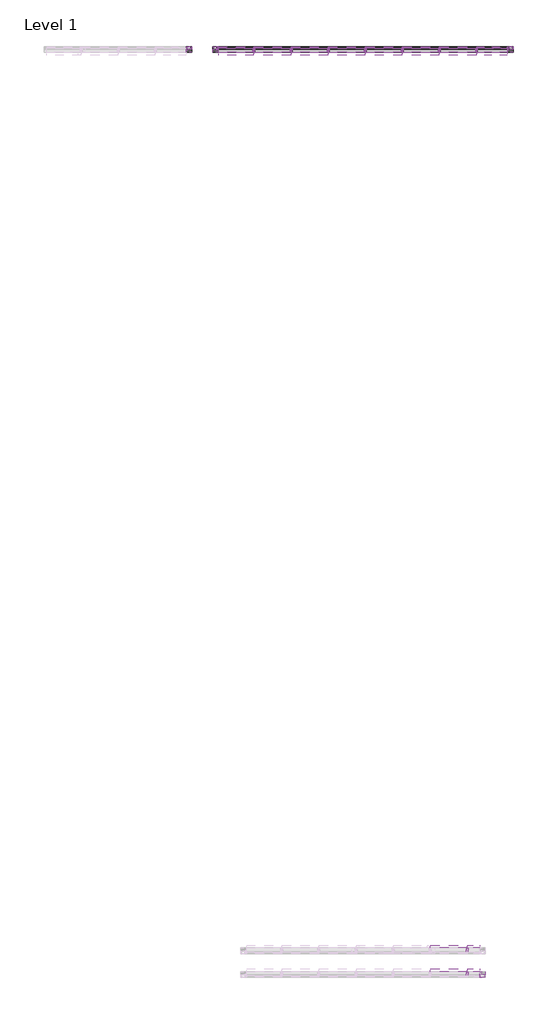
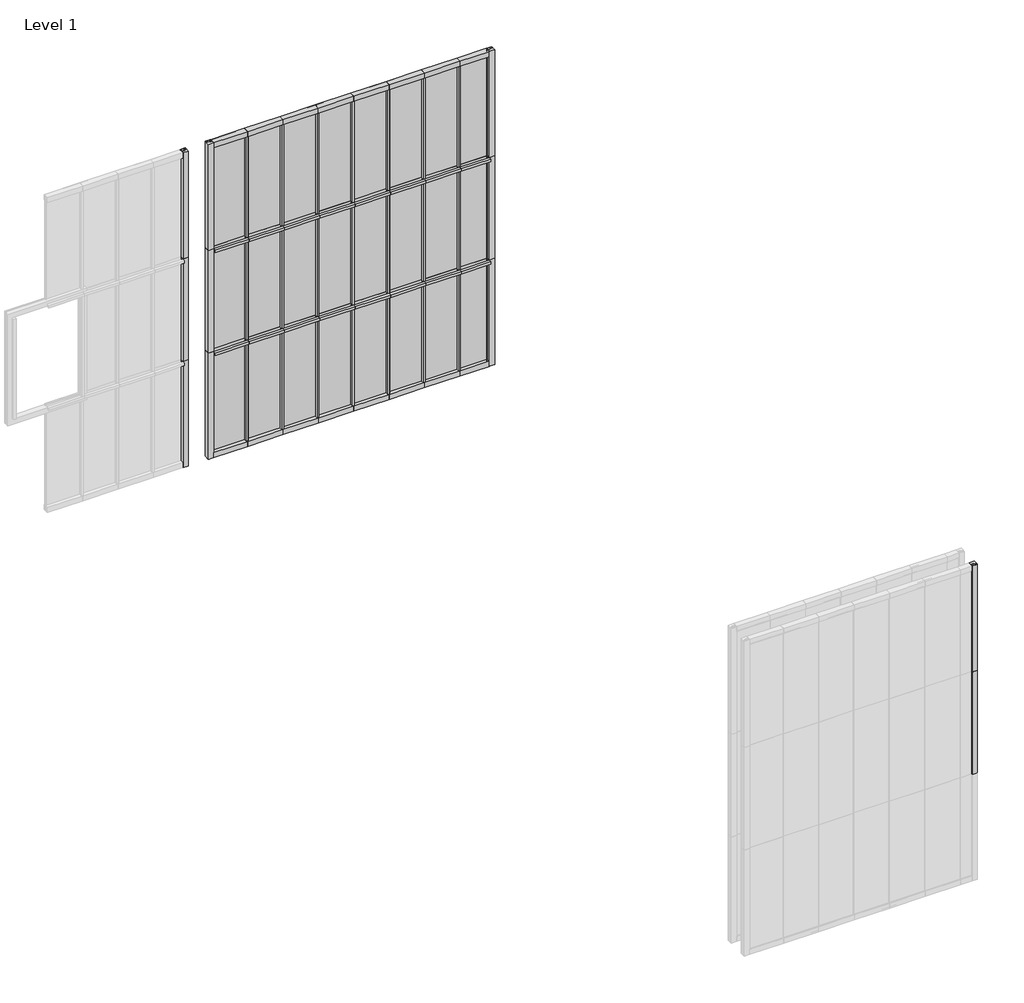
# One storey, part 3 of 3: 75 members, 24 plates.
"""IFC4 building model written with IfcOpenShell, lengths in millimetres."""

from ifc_helpers import new_model, si_unit, origin, place, context, project, spatial, transform, mapped, element, save
from components import rectangular_mullion_ef4c3dbc, rectangular_mullion_38807b77, rectangular_mullion_2cd8be2a, rectangular_mullion_7fd34434, rectangular_mullion_f4b86b5b, rectangular_mullion_f51daa18, rectangular_mullion_e8e8685e, rectangular_mullion_af7c33be, rectangular_mullion_9c042f3e, rectangular_mullion_367668c4, rectangular_mullion_1778ee46, rectangular_mullion_ea144f86, rectangular_mullion_4a3f3de7, rectangular_mullion_879f446c, rectangular_mullion_05b556cc, rectangular_mullion_7f2ec0c3, rectangular_mullion_41eb730e, rectangular_mullion_1f556744, plate_1633828d, plate_0e341a54

model = new_model("IFC4")

# Units and contexts
model_context = context("Model", 3, world=origin())
ifc_project = project(units=[si_unit("LENGTHUNIT", "METRE", prefix="MILLI")], contexts=[model_context])

# Site, building, storey
site = spatial("IfcSite", under=ifc_project)
building = spatial("IfcBuilding", under=site)
storey = spatial("IfcBuildingStorey", under=building, Name="Level 1", Elevation=0.0)

# Members
placement = place(None, origin())
rectangular_mullion_shape = rectangular_mullion_ef4c3dbc(model_context)
element("IfcMember", 1, ObjectType="Rectangular Mullion : Danpal_NM_End-Mullion_B2", at=placement, inside=storey, context=model_context, shape_type="MappedRepresentation", body=[
    mapped(rectangular_mullion_shape, transform((4264.2822678, 2597.5512666, 3315.1583168), x_axis=(1.0, 0.0, 0.0), y_axis=(0.0, -1.0, 0.0), z_axis=(0.0, 0.0, -1.0))),
])
rectangular_mullion_2_shape = rectangular_mullion_38807b77(model_context)
element("IfcMember", 2, ObjectType="Rectangular Mullion : Danpal_NM_InetrnalV-Mullion", at=placement, inside=storey, context=model_context, shape_type="MappedRepresentation", body=[
    mapped(rectangular_mullion_2_shape, transform((4008.5454106, 2937.5512666, 3315.1583168), x_axis=(1.0, 0.0, 0.0), y_axis=(0.0, -1.0, 0.0), z_axis=(0.0, 0.0, -1.0))),
])
element("IfcMember", 3, ObjectType="Rectangular Mullion : Danpal_NM_InetrnalV-Mullion", at=placement, inside=storey, context=model_context, shape_type="MappedRepresentation", body=[
    mapped(rectangular_mullion_2_shape, transform((4008.5454106, 2597.5512666, 3315.1583168), x_axis=(1.0, 0.0, 0.0), y_axis=(0.0, -1.0, 0.0), z_axis=(0.0, 0.0, -1.0))),
])
rectangular_mullion_3_shape = rectangular_mullion_2cd8be2a(model_context)
element("IfcMember", 4, ObjectType="Rectangular Mullion : Danpal_NM_InetrnalV-Mullion", at=placement, inside=storey, context=model_context, shape_type="MappedRepresentation", body=[
    mapped(rectangular_mullion_3_shape, transform((4008.5454106, 2597.5512666, 1686.1107298), x_axis=(1.0, 0.0, 0.0), y_axis=(0.0, -1.0, 0.0), z_axis=(0.0, 0.0, -1.0))),
])
rectangular_mullion_4_shape = rectangular_mullion_7fd34434(model_context)
element("IfcMember", 5, ObjectType="Rectangular Mullion : Danpal_NM_End-Mullion_B2", at=placement, inside=storey, context=model_context, shape_type="MappedRepresentation", body=[
    mapped(rectangular_mullion_4_shape, transform((4264.2822678, 2597.5512666, 1686.1107298), x_axis=(1.0, 0.0, 0.0), y_axis=(0.0, -1.0, 0.0), z_axis=(0.0, 0.0, -1.0))),
])
rectangular_mullion_5_shape = rectangular_mullion_f4b86b5b(model_context)
element("IfcMember", 6, ObjectType="Rectangular Mullion : Danpal_NM_End-Mullion_B2", at=placement, inside=storey, context=model_context, shape_type="MappedRepresentation", body=[
    mapped(rectangular_mullion_5_shape, transform((2546.1454106, 15897.5512666, 5000.0), x_axis=(0.0, 0.0, 1.0), y_axis=(0.0, -1.0, 0.0), z_axis=(1.0, 0.0, 0.0))),
])
element("IfcMember", 7, ObjectType="Rectangular Mullion : Danpal_NM_End-Mullion_B2", at=placement, inside=storey, context=model_context, shape_type="MappedRepresentation", body=[
    mapped(rectangular_mullion_5_shape, transform((3077.3454106, 15897.5512666, 5000.0), x_axis=(0.0, 0.0, 1.0), y_axis=(0.0, -1.0, 0.0), z_axis=(1.0, 0.0, 0.0))),
])
element("IfcMember", 8, ObjectType="Rectangular Mullion : Danpal_NM_End-Mullion_B2", at=placement, inside=storey, context=model_context, shape_type="MappedRepresentation", body=[
    mapped(rectangular_mullion_5_shape, transform((3608.5454106, 15897.5512666, 5000.0), x_axis=(0.0, 0.0, 1.0), y_axis=(0.0, -1.0, 0.0), z_axis=(1.0, 0.0, 0.0))),
])
element("IfcMember", 9, ObjectType="Rectangular Mullion : Danpal_NM_End-Mullion_B2", at=placement, inside=storey, context=model_context, shape_type="MappedRepresentation", body=[
    mapped(rectangular_mullion_5_shape, transform((4139.7454106, 15897.5512666, 5000.0), x_axis=(0.0, 0.0, 1.0), y_axis=(0.0, -1.0, 0.0), z_axis=(1.0, 0.0, 0.0))),
])
element("IfcMember", 10, ObjectType="Rectangular Mullion : Danpal_NM_End-Mullion_B2", at=placement, inside=storey, context=model_context, shape_type="MappedRepresentation", body=[
    mapped(rectangular_mullion_5_shape, transform((2014.9454106, 15897.5512666, 5000.0), x_axis=(0.0, 0.0, 1.0), y_axis=(0.0, -1.0, 0.0), z_axis=(1.0, 0.0, 0.0))),
])
element("IfcMember", 11, ObjectType="Rectangular Mullion : Danpal_NM_End-Mullion_B2", at=placement, inside=storey, context=model_context, shape_type="MappedRepresentation", body=[
    mapped(rectangular_mullion_5_shape, transform((1483.7454106, 15897.5512666, 5000.0), x_axis=(0.0, 0.0, 1.0), y_axis=(0.0, -1.0, 0.0), z_axis=(1.0, 0.0, 0.0))),
])
element("IfcMember", 12, ObjectType="Rectangular Mullion : Danpal_NM_End-Mullion_B1", at=placement, inside=storey, context=model_context, shape_type="MappedRepresentation", body=[
    mapped(rectangular_mullion_5_shape, transform((2546.1454106, 15897.5512666, 0.0), x_axis=(0.0, 0.0, -1.0), y_axis=(0.0, -1.0, 0.0), z_axis=(-1.0, 0.0, 0.0))),
])
element("IfcMember", 13, ObjectType="Rectangular Mullion : Danpal_NM_End-Mullion_B1", at=placement, inside=storey, context=model_context, shape_type="MappedRepresentation", body=[
    mapped(rectangular_mullion_5_shape, transform((3077.3454106, 15897.5512666, 0.0), x_axis=(0.0, 0.0, -1.0), y_axis=(0.0, -1.0, 0.0), z_axis=(-1.0, 0.0, 0.0))),
])
element("IfcMember", 14, ObjectType="Rectangular Mullion : Danpal_NM_End-Mullion_B1", at=placement, inside=storey, context=model_context, shape_type="MappedRepresentation", body=[
    mapped(rectangular_mullion_5_shape, transform((3608.5454106, 15897.5512666, 0.0), x_axis=(0.0, 0.0, -1.0), y_axis=(0.0, -1.0, 0.0), z_axis=(-1.0, 0.0, 0.0))),
])
element("IfcMember", 15, ObjectType="Rectangular Mullion : Danpal_NM_End-Mullion_B1", at=placement, inside=storey, context=model_context, shape_type="MappedRepresentation", body=[
    mapped(rectangular_mullion_5_shape, transform((2014.9454106, 15897.5512666, 0.0), x_axis=(0.0, 0.0, -1.0), y_axis=(0.0, -1.0, 0.0), z_axis=(-1.0, 0.0, 0.0))),
])
element("IfcMember", 16, ObjectType="Rectangular Mullion : Danpal_NM_End-Mullion_B1", at=placement, inside=storey, context=model_context, shape_type="MappedRepresentation", body=[
    mapped(rectangular_mullion_5_shape, transform((1483.7454106, 15897.5512666, 0.0), x_axis=(0.0, 0.0, -1.0), y_axis=(0.0, -1.0, 0.0), z_axis=(-1.0, 0.0, 0.0))),
])
element("IfcMember", 17, ObjectType="Rectangular Mullion : Danpal_NM_End-Mullion_B1", at=placement, inside=storey, context=model_context, shape_type="MappedRepresentation", body=[
    mapped(rectangular_mullion_5_shape, transform((952.5454106, 15897.5512666, 0.0), x_axis=(0.0, 0.0, -1.0), y_axis=(0.0, -1.0, 0.0), z_axis=(-1.0, 0.0, 0.0))),
])
rectangular_mullion_6_shape = rectangular_mullion_f51daa18(model_context)
element("IfcMember", 18, ObjectType="Rectangular Mullion : Danpal_NM_MiddleH-Mullion", at=placement, inside=storey, context=model_context, shape_type="MappedRepresentation", body=[
    mapped(rectangular_mullion_6_shape, transform((2014.9454106, 15897.5512666, 1686.1107298), x_axis=(0.0, 0.0, 1.0), y_axis=(0.0, -1.0, 0.0), z_axis=(1.0, 0.0, 0.0))),
])
element("IfcMember", 19, ObjectType="Rectangular Mullion : Danpal_NM_MiddleH-Mullion", at=placement, inside=storey, context=model_context, shape_type="MappedRepresentation", body=[
    mapped(rectangular_mullion_6_shape, transform((2546.1454106, 15897.5512666, 1686.1107298), x_axis=(0.0, 0.0, 1.0), y_axis=(0.0, -1.0, 0.0), z_axis=(1.0, 0.0, 0.0))),
])
element("IfcMember", 20, ObjectType="Rectangular Mullion : Danpal_NM_MiddleH-Mullion", at=placement, inside=storey, context=model_context, shape_type="MappedRepresentation", body=[
    mapped(rectangular_mullion_6_shape, transform((3077.3454106, 15897.5512666, 1686.1107298), x_axis=(0.0, 0.0, 1.0), y_axis=(0.0, -1.0, 0.0), z_axis=(1.0, 0.0, 0.0))),
])
element("IfcMember", 21, ObjectType="Rectangular Mullion : Danpal_NM_MiddleH-Mullion", at=placement, inside=storey, context=model_context, shape_type="MappedRepresentation", body=[
    mapped(rectangular_mullion_6_shape, transform((3608.5454106, 15897.5512666, 1686.1107298), x_axis=(0.0, 0.0, 1.0), y_axis=(0.0, -1.0, 0.0), z_axis=(1.0, 0.0, 0.0))),
])
element("IfcMember", 22, ObjectType="Rectangular Mullion : Danpal_NM_MiddleH-Mullion", at=placement, inside=storey, context=model_context, shape_type="MappedRepresentation", body=[
    mapped(rectangular_mullion_6_shape, transform((4139.7454106, 15897.5512666, 1686.1107298), x_axis=(0.0, 0.0, 1.0), y_axis=(0.0, -1.0, 0.0), z_axis=(1.0, 0.0, 0.0))),
])
element("IfcMember", 23, ObjectType="Rectangular Mullion : Danpal_NM_MiddleH-Mullion", at=placement, inside=storey, context=model_context, shape_type="MappedRepresentation", body=[
    mapped(rectangular_mullion_6_shape, transform((2014.9454106, 15897.5512666, 3315.1583168), x_axis=(0.0, 0.0, 1.0), y_axis=(0.0, -1.0, 0.0), z_axis=(1.0, 0.0, 0.0))),
])
element("IfcMember", 24, ObjectType="Rectangular Mullion : Danpal_NM_MiddleH-Mullion", at=placement, inside=storey, context=model_context, shape_type="MappedRepresentation", body=[
    mapped(rectangular_mullion_6_shape, transform((2546.1454106, 15897.5512666, 3315.1583168), x_axis=(0.0, 0.0, 1.0), y_axis=(0.0, -1.0, 0.0), z_axis=(1.0, 0.0, 0.0))),
])
element("IfcMember", 25, ObjectType="Rectangular Mullion : Danpal_NM_MiddleH-Mullion", at=placement, inside=storey, context=model_context, shape_type="MappedRepresentation", body=[
    mapped(rectangular_mullion_6_shape, transform((3077.3454106, 15897.5512666, 3315.1583168), x_axis=(0.0, 0.0, 1.0), y_axis=(0.0, -1.0, 0.0), z_axis=(1.0, 0.0, 0.0))),
])
element("IfcMember", 26, ObjectType="Rectangular Mullion : Danpal_NM_MiddleH-Mullion", at=placement, inside=storey, context=model_context, shape_type="MappedRepresentation", body=[
    mapped(rectangular_mullion_6_shape, transform((3608.5454106, 15897.5512666, 3315.1583168), x_axis=(0.0, 0.0, 1.0), y_axis=(0.0, -1.0, 0.0), z_axis=(1.0, 0.0, 0.0))),
])
element("IfcMember", 27, ObjectType="Rectangular Mullion : Danpal_NM_MiddleH-Mullion", at=placement, inside=storey, context=model_context, shape_type="MappedRepresentation", body=[
    mapped(rectangular_mullion_6_shape, transform((4139.7454106, 15897.5512666, 3315.1583168), x_axis=(0.0, 0.0, 1.0), y_axis=(0.0, -1.0, 0.0), z_axis=(1.0, 0.0, 0.0))),
])
element("IfcMember", 28, ObjectType="Rectangular Mullion : Danpal_NM_MiddleH-Mullion", at=placement, inside=storey, context=model_context, shape_type="MappedRepresentation", body=[
    mapped(rectangular_mullion_6_shape, transform((1483.7454106, 15897.5512666, 1686.1107298), x_axis=(0.0, 0.0, 1.0), y_axis=(0.0, -1.0, 0.0), z_axis=(1.0, 0.0, 0.0))),
])
element("IfcMember", 29, ObjectType="Rectangular Mullion : Danpal_NM_MiddleH-Mullion", at=placement, inside=storey, context=model_context, shape_type="MappedRepresentation", body=[
    mapped(rectangular_mullion_6_shape, transform((1483.7454106, 15897.5512666, 3315.1583168), x_axis=(0.0, 0.0, 1.0), y_axis=(0.0, -1.0, 0.0), z_axis=(1.0, 0.0, 0.0))),
])
rectangular_mullion_7_shape = rectangular_mullion_e8e8685e(model_context)
element("IfcMember", 30, ObjectType="Rectangular Mullion : Danpal_NM_End-Mullion_B1", at=placement, inside=storey, context=model_context, shape_type="MappedRepresentation", body=[
    mapped(rectangular_mullion_7_shape, transform((446.160168, 15897.5512666, 0.0), x_axis=(0.0, 0.0, -1.0), y_axis=(0.0, -1.0, 0.0), z_axis=(-1.0, 0.0, 0.0))),
])
rectangular_mullion_8_shape = rectangular_mullion_af7c33be(model_context)
element("IfcMember", 31, ObjectType="Rectangular Mullion : Danpal_NM_InetrnalV-Mullion", at=placement, inside=storey, context=model_context, shape_type="MappedRepresentation", body=[
    mapped(rectangular_mullion_8_shape, transform((2546.1454106, 15897.5512666, 81.8779002), x_axis=(1.0, 0.0, 0.0), y_axis=(0.0, -1.0, 0.0), z_axis=(0.0, 0.0, -1.0))),
])
element("IfcMember", 32, ObjectType="Rectangular Mullion : Danpal_NM_InetrnalV-Mullion", at=placement, inside=storey, context=model_context, shape_type="MappedRepresentation", body=[
    mapped(rectangular_mullion_8_shape, transform((3077.3454106, 15897.5512666, 81.8779002), x_axis=(1.0, 0.0, 0.0), y_axis=(0.0, -1.0, 0.0), z_axis=(0.0, 0.0, -1.0))),
])
element("IfcMember", 33, ObjectType="Rectangular Mullion : Danpal_NM_InetrnalV-Mullion", at=placement, inside=storey, context=model_context, shape_type="MappedRepresentation", body=[
    mapped(rectangular_mullion_8_shape, transform((3608.5454106, 15897.5512666, 81.8779002), x_axis=(1.0, 0.0, 0.0), y_axis=(0.0, -1.0, 0.0), z_axis=(0.0, 0.0, -1.0))),
])
element("IfcMember", 34, ObjectType="Rectangular Mullion : Danpal_NM_InetrnalV-Mullion", at=placement, inside=storey, context=model_context, shape_type="MappedRepresentation", body=[
    mapped(rectangular_mullion_8_shape, transform((4139.7454106, 15897.5512666, 81.8779002), x_axis=(1.0, 0.0, 0.0), y_axis=(0.0, -1.0, 0.0), z_axis=(0.0, 0.0, -1.0))),
])
element("IfcMember", 35, ObjectType="Rectangular Mullion : Danpal_NM_InetrnalV-Mullion", at=placement, inside=storey, context=model_context, shape_type="MappedRepresentation", body=[
    mapped(rectangular_mullion_8_shape, transform((2014.9454106, 15897.5512666, 81.8779002), x_axis=(1.0, 0.0, 0.0), y_axis=(0.0, -1.0, 0.0), z_axis=(0.0, 0.0, -1.0))),
])
element("IfcMember", 36, ObjectType="Rectangular Mullion : Danpal_NM_InetrnalV-Mullion", at=placement, inside=storey, context=model_context, shape_type="MappedRepresentation", body=[
    mapped(rectangular_mullion_8_shape, transform((1483.7454106, 15897.5512666, 81.8779002), x_axis=(1.0, 0.0, 0.0), y_axis=(0.0, -1.0, 0.0), z_axis=(0.0, 0.0, -1.0))),
])
element("IfcMember", 37, ObjectType="Rectangular Mullion : Danpal_NM_InetrnalV-Mullion", at=placement, inside=storey, context=model_context, shape_type="MappedRepresentation", body=[
    mapped(rectangular_mullion_8_shape, transform((952.5454106, 15897.5512666, 81.8779002), x_axis=(1.0, 0.0, 0.0), y_axis=(0.0, -1.0, 0.0), z_axis=(0.0, 0.0, -1.0))),
])
rectangular_mullion_9_shape = rectangular_mullion_9c042f3e(model_context)
element("IfcMember", 38, ObjectType="Rectangular Mullion : Danpal_NM_InetrnalV-Mullion", at=placement, inside=storey, context=model_context, shape_type="MappedRepresentation", body=[
    mapped(rectangular_mullion_9_shape, transform((2546.1454106, 15897.5512666, 1686.1107298), x_axis=(1.0, 0.0, 0.0), y_axis=(0.0, -1.0, 0.0), z_axis=(0.0, 0.0, -1.0))),
])
element("IfcMember", 39, ObjectType="Rectangular Mullion : Danpal_NM_InetrnalV-Mullion", at=placement, inside=storey, context=model_context, shape_type="MappedRepresentation", body=[
    mapped(rectangular_mullion_9_shape, transform((3077.3454106, 15897.5512666, 1686.1107298), x_axis=(1.0, 0.0, 0.0), y_axis=(0.0, -1.0, 0.0), z_axis=(0.0, 0.0, -1.0))),
])
element("IfcMember", 40, ObjectType="Rectangular Mullion : Danpal_NM_InetrnalV-Mullion", at=placement, inside=storey, context=model_context, shape_type="MappedRepresentation", body=[
    mapped(rectangular_mullion_9_shape, transform((3608.5454106, 15897.5512666, 1686.1107298), x_axis=(1.0, 0.0, 0.0), y_axis=(0.0, -1.0, 0.0), z_axis=(0.0, 0.0, -1.0))),
])
element("IfcMember", 41, ObjectType="Rectangular Mullion : Danpal_NM_InetrnalV-Mullion", at=placement, inside=storey, context=model_context, shape_type="MappedRepresentation", body=[
    mapped(rectangular_mullion_9_shape, transform((4139.7454106, 15897.5512666, 1686.1107298), x_axis=(1.0, 0.0, 0.0), y_axis=(0.0, -1.0, 0.0), z_axis=(0.0, 0.0, -1.0))),
])
element("IfcMember", 42, ObjectType="Rectangular Mullion : Danpal_NM_InetrnalV-Mullion", at=placement, inside=storey, context=model_context, shape_type="MappedRepresentation", body=[
    mapped(rectangular_mullion_9_shape, transform((2014.9454106, 15897.5512666, 1686.1107298), x_axis=(1.0, 0.0, 0.0), y_axis=(0.0, -1.0, 0.0), z_axis=(0.0, 0.0, -1.0))),
])
element("IfcMember", 43, ObjectType="Rectangular Mullion : Danpal_NM_InetrnalV-Mullion", at=placement, inside=storey, context=model_context, shape_type="MappedRepresentation", body=[
    mapped(rectangular_mullion_9_shape, transform((1483.7454106, 15897.5512666, 1686.1107298), x_axis=(1.0, 0.0, 0.0), y_axis=(0.0, -1.0, 0.0), z_axis=(0.0, 0.0, -1.0))),
])
element("IfcMember", 44, ObjectType="Rectangular Mullion : Danpal_NM_InetrnalV-Mullion", at=placement, inside=storey, context=model_context, shape_type="MappedRepresentation", body=[
    mapped(rectangular_mullion_9_shape, transform((952.5454106, 15897.5512666, 1686.1107298), x_axis=(1.0, 0.0, 0.0), y_axis=(0.0, -1.0, 0.0), z_axis=(0.0, 0.0, -1.0))),
])
rectangular_mullion_10_shape = rectangular_mullion_367668c4(model_context)
element("IfcMember", 45, ObjectType="Rectangular Mullion : Danpal_NM_InetrnalV-Mullion", at=placement, inside=storey, context=model_context, shape_type="MappedRepresentation", body=[
    mapped(rectangular_mullion_10_shape, transform((2546.1454106, 15897.5512666, 3315.1583168), x_axis=(1.0, 0.0, 0.0), y_axis=(0.0, -1.0, 0.0), z_axis=(0.0, 0.0, -1.0))),
])
element("IfcMember", 46, ObjectType="Rectangular Mullion : Danpal_NM_InetrnalV-Mullion", at=placement, inside=storey, context=model_context, shape_type="MappedRepresentation", body=[
    mapped(rectangular_mullion_10_shape, transform((3077.3454106, 15897.5512666, 3315.1583168), x_axis=(1.0, 0.0, 0.0), y_axis=(0.0, -1.0, 0.0), z_axis=(0.0, 0.0, -1.0))),
])
element("IfcMember", 47, ObjectType="Rectangular Mullion : Danpal_NM_InetrnalV-Mullion", at=placement, inside=storey, context=model_context, shape_type="MappedRepresentation", body=[
    mapped(rectangular_mullion_10_shape, transform((3608.5454106, 15897.5512666, 3315.1583168), x_axis=(1.0, 0.0, 0.0), y_axis=(0.0, -1.0, 0.0), z_axis=(0.0, 0.0, -1.0))),
])
element("IfcMember", 48, ObjectType="Rectangular Mullion : Danpal_NM_InetrnalV-Mullion", at=placement, inside=storey, context=model_context, shape_type="MappedRepresentation", body=[
    mapped(rectangular_mullion_10_shape, transform((4139.7454106, 15897.5512666, 3315.1583168), x_axis=(1.0, 0.0, 0.0), y_axis=(0.0, -1.0, 0.0), z_axis=(0.0, 0.0, -1.0))),
])
element("IfcMember", 49, ObjectType="Rectangular Mullion : Danpal_NM_InetrnalV-Mullion", at=placement, inside=storey, context=model_context, shape_type="MappedRepresentation", body=[
    mapped(rectangular_mullion_10_shape, transform((2014.9454106, 15897.5512666, 3315.1583168), x_axis=(1.0, 0.0, 0.0), y_axis=(0.0, -1.0, 0.0), z_axis=(0.0, 0.0, -1.0))),
])
element("IfcMember", 50, ObjectType="Rectangular Mullion : Danpal_NM_InetrnalV-Mullion", at=placement, inside=storey, context=model_context, shape_type="MappedRepresentation", body=[
    mapped(rectangular_mullion_10_shape, transform((1483.7454106, 15897.5512666, 3315.1583168), x_axis=(1.0, 0.0, 0.0), y_axis=(0.0, -1.0, 0.0), z_axis=(0.0, 0.0, -1.0))),
])
element("IfcMember", 51, ObjectType="Rectangular Mullion : Danpal_NM_InetrnalV-Mullion", at=placement, inside=storey, context=model_context, shape_type="MappedRepresentation", body=[
    mapped(rectangular_mullion_10_shape, transform((952.5454106, 15897.5512666, 3315.1583168), x_axis=(1.0, 0.0, 0.0), y_axis=(0.0, -1.0, 0.0), z_axis=(0.0, 0.0, -1.0))),
])
element("IfcMember", 52, ObjectType="Rectangular Mullion : Danpal_NM_End-Mullion_B2", at=placement, inside=storey, context=model_context, shape_type="MappedRepresentation", body=[
    mapped(rectangular_mullion_7_shape, transform((952.5454106, 15897.5512666, 5000.0), x_axis=(0.0, 0.0, 1.0), y_axis=(0.0, -1.0, 0.0), z_axis=(1.0, 0.0, 0.0))),
])
rectangular_mullion_11_shape = rectangular_mullion_1778ee46(model_context)
element("IfcMember", 53, ObjectType="Rectangular Mullion : Danpal_NM_End-Mullion_B1", at=placement, inside=storey, context=model_context, shape_type="MappedRepresentation", body=[
    mapped(rectangular_mullion_11_shape, transform((4139.7454106, 15897.5512666, 0.0), x_axis=(0.0, 0.0, -1.0), y_axis=(0.0, -1.0, 0.0), z_axis=(-1.0, 0.0, 0.0))),
])
rectangular_mullion_12_shape = rectangular_mullion_ea144f86(model_context)
element("IfcMember", 54, ObjectType="Rectangular Mullion : Danpal_NM_MiddleH-Mullion", at=placement, inside=storey, context=model_context, shape_type="MappedRepresentation", body=[
    mapped(rectangular_mullion_12_shape, transform((4582.4043676, 15897.5512666, 1686.1107298), x_axis=(0.0, 0.0, 1.0), y_axis=(0.0, -1.0, 0.0), z_axis=(1.0, 0.0, 0.0))),
])
element("IfcMember", 55, ObjectType="Rectangular Mullion : Danpal_NM_MiddleH-Mullion", at=placement, inside=storey, context=model_context, shape_type="MappedRepresentation", body=[
    mapped(rectangular_mullion_12_shape, transform((4582.4043676, 15897.5512666, 3315.1583168), x_axis=(0.0, 0.0, 1.0), y_axis=(0.0, -1.0, 0.0), z_axis=(1.0, 0.0, 0.0))),
])
rectangular_mullion_13_shape = rectangular_mullion_4a3f3de7(model_context)
element("IfcMember", 56, ObjectType="Rectangular Mullion : Danpal_NM_MiddleH-Mullion", at=placement, inside=storey, context=model_context, shape_type="MappedRepresentation", body=[
    mapped(rectangular_mullion_13_shape, transform((952.5454106, 15897.5512666, 1686.1107298), x_axis=(0.0, 0.0, 1.0), y_axis=(0.0, -1.0, 0.0), z_axis=(1.0, 0.0, 0.0))),
])
element("IfcMember", 57, ObjectType="Rectangular Mullion : Danpal_NM_MiddleH-Mullion", at=placement, inside=storey, context=model_context, shape_type="MappedRepresentation", body=[
    mapped(rectangular_mullion_13_shape, transform((952.5454106, 15897.5512666, 3315.1583168), x_axis=(0.0, 0.0, 1.0), y_axis=(0.0, -1.0, 0.0), z_axis=(1.0, 0.0, 0.0))),
])
rectangular_mullion_14_shape = rectangular_mullion_879f446c(model_context)
element("IfcMember", 58, ObjectType="Rectangular Mullion : Danpal_NM_End-Mullion_B2", at=placement, inside=storey, context=model_context, shape_type="MappedRepresentation", body=[
    mapped(rectangular_mullion_14_shape, transform((4664.2822678, 15897.5512666, 0.0), x_axis=(1.0, 0.0, 0.0), y_axis=(0.0, -1.0, 0.0), z_axis=(0.0, 0.0, -1.0))),
])
element("IfcMember", 59, ObjectType="Rectangular Mullion : Danpal_NM_End-Mullion_B2", at=placement, inside=storey, context=model_context, shape_type="MappedRepresentation", body=[
    mapped(rectangular_mullion_14_shape, transform((64.2822678, 15897.5512666, 0.0), x_axis=(1.0, 0.0, 0.0), y_axis=(0.0, -1.0, 0.0), z_axis=(0.0, 0.0, -1.0))),
])
rectangular_mullion_15_shape = rectangular_mullion_05b556cc(model_context)
element("IfcMember", 60, ObjectType="Rectangular Mullion : Danpal_NM_End-Mullion_B1", at=placement, inside=storey, context=model_context, shape_type="MappedRepresentation", body=[
    mapped(rectangular_mullion_15_shape, transform((364.2822678, 15897.5512666, 5000.0), x_axis=(-1.0, 0.0, 0.0), y_axis=(0.0, -1.0, 0.0), z_axis=(0.0, 0.0, 1.0))),
])
rectangular_mullion_16_shape = rectangular_mullion_7f2ec0c3(model_context)
element("IfcMember", 61, ObjectType="Rectangular Mullion : Danpal_NM_End-Mullion_B2", at=placement, inside=storey, context=model_context, shape_type="MappedRepresentation", body=[
    mapped(rectangular_mullion_16_shape, transform((4664.2822678, 15897.5512666, 1686.1107298), x_axis=(1.0, 0.0, 0.0), y_axis=(0.0, -1.0, 0.0), z_axis=(0.0, 0.0, -1.0))),
])
element("IfcMember", 62, ObjectType="Rectangular Mullion : Danpal_NM_End-Mullion_B2", at=placement, inside=storey, context=model_context, shape_type="MappedRepresentation", body=[
    mapped(rectangular_mullion_16_shape, transform((64.2822678, 15897.5512666, 1686.1107298), x_axis=(1.0, 0.0, 0.0), y_axis=(0.0, -1.0, 0.0), z_axis=(0.0, 0.0, -1.0))),
])
element("IfcMember", 63, ObjectType="Rectangular Mullion : Danpal_NM_End-Mullion_B1", at=placement, inside=storey, context=model_context, shape_type="MappedRepresentation", body=[
    mapped(rectangular_mullion_16_shape, transform((364.2822678, 15897.5512666, 3315.1583168), x_axis=(-1.0, 0.0, 0.0), y_axis=(0.0, -1.0, 0.0), z_axis=(0.0, 0.0, 1.0))),
])
element("IfcMember", 64, ObjectType="Rectangular Mullion : Danpal_NM_End-Mullion_B1", at=placement, inside=storey, context=model_context, shape_type="MappedRepresentation", body=[
    mapped(rectangular_mullion_14_shape, transform((364.2822678, 15897.5512666, 1686.1107298), x_axis=(-1.0, 0.0, 0.0), y_axis=(0.0, -1.0, 0.0), z_axis=(0.0, 0.0, 1.0))),
])
element("IfcMember", 65, ObjectType="Rectangular Mullion : Danpal_NM_End-Mullion_B2", at=placement, inside=storey, context=model_context, shape_type="MappedRepresentation", body=[
    mapped(rectangular_mullion_11_shape, transform((4582.4043676, 15897.5512666, 5000.0), x_axis=(0.0, 0.0, 1.0), y_axis=(0.0, -1.0, 0.0), z_axis=(1.0, 0.0, 0.0))),
])
element("IfcMember", 66, ObjectType="Rectangular Mullion : Danpal_NM_End-Mullion_B2", at=placement, inside=storey, context=model_context, shape_type="MappedRepresentation", body=[
    mapped(rectangular_mullion_15_shape, transform((4664.2822678, 15897.5512666, 3315.1583168), x_axis=(1.0, 0.0, 0.0), y_axis=(0.0, -1.0, 0.0), z_axis=(0.0, 0.0, -1.0))),
])
element("IfcMember", 67, ObjectType="Rectangular Mullion : Danpal_NM_End-Mullion_B2", at=placement, inside=storey, context=model_context, shape_type="MappedRepresentation", body=[
    mapped(rectangular_mullion_15_shape, transform((64.2822678, 15897.5512666, 3315.1583168), x_axis=(1.0, 0.0, 0.0), y_axis=(0.0, -1.0, 0.0), z_axis=(0.0, 0.0, -1.0))),
])
rectangular_mullion_17_shape = rectangular_mullion_41eb730e(model_context)
element("IfcMember", 68, ObjectType="Rectangular Mullion : Danpal_NM_MiddleH-Mullion", at=placement, inside=storey, context=model_context, shape_type="MappedRepresentation", body=[
    mapped(rectangular_mullion_17_shape, transform((4008.5454106, 2937.5512666, 1686.1107298), x_axis=(0.0, 0.0, 1.0), y_axis=(0.0, -1.0, 0.0), z_axis=(1.0, 0.0, 0.0))),
])
element("IfcMember", 69, ObjectType="Rectangular Mullion : Danpal_NM_MiddleH-Mullion", at=placement, inside=storey, context=model_context, shape_type="MappedRepresentation", body=[
    mapped(rectangular_mullion_17_shape, transform((4008.5454106, 2937.5512666, 3315.1583168), x_axis=(0.0, 0.0, 1.0), y_axis=(0.0, -1.0, 0.0), z_axis=(1.0, 0.0, 0.0))),
])
element("IfcMember", 70, ObjectType="Rectangular Mullion : Danpal_NM_MiddleH-Mullion", at=placement, inside=storey, context=model_context, shape_type="MappedRepresentation", body=[
    mapped(rectangular_mullion_17_shape, transform((4008.5454106, 2597.5512666, 1686.1107298), x_axis=(0.0, 0.0, 1.0), y_axis=(0.0, -1.0, 0.0), z_axis=(1.0, 0.0, 0.0))),
])
element("IfcMember", 71, ObjectType="Rectangular Mullion : Danpal_NM_MiddleH-Mullion", at=placement, inside=storey, context=model_context, shape_type="MappedRepresentation", body=[
    mapped(rectangular_mullion_17_shape, transform((4008.5454106, 2597.5512666, 3315.1583168), x_axis=(0.0, 0.0, 1.0), y_axis=(0.0, -1.0, 0.0), z_axis=(1.0, 0.0, 0.0))),
])
rectangular_mullion_18_shape = rectangular_mullion_1f556744(model_context)
element("IfcMember", 72, ObjectType="Rectangular Mullion : Danpal_NM_MiddleH-Mullion", at=placement, inside=storey, context=model_context, shape_type="MappedRepresentation", body=[
    mapped(rectangular_mullion_18_shape, transform((4182.4043676, 2937.5512666, 1686.1107298), x_axis=(0.0, 0.0, 1.0), y_axis=(0.0, -1.0, 0.0), z_axis=(1.0, 0.0, 0.0))),
])
element("IfcMember", 73, ObjectType="Rectangular Mullion : Danpal_NM_MiddleH-Mullion", at=placement, inside=storey, context=model_context, shape_type="MappedRepresentation", body=[
    mapped(rectangular_mullion_18_shape, transform((4182.4043676, 2937.5512666, 3315.1583168), x_axis=(0.0, 0.0, 1.0), y_axis=(0.0, -1.0, 0.0), z_axis=(1.0, 0.0, 0.0))),
])
element("IfcMember", 74, ObjectType="Rectangular Mullion : Danpal_NM_MiddleH-Mullion", at=placement, inside=storey, context=model_context, shape_type="MappedRepresentation", body=[
    mapped(rectangular_mullion_18_shape, transform((4182.4043676, 2597.5512666, 1686.1107298), x_axis=(0.0, 0.0, 1.0), y_axis=(0.0, -1.0, 0.0), z_axis=(1.0, 0.0, 0.0))),
])
element("IfcMember", 75, ObjectType="Rectangular Mullion : Danpal_NM_MiddleH-Mullion", at=placement, inside=storey, context=model_context, shape_type="MappedRepresentation", body=[
    mapped(rectangular_mullion_18_shape, transform((4182.4043676, 2597.5512666, 3315.1583168), x_axis=(0.0, 0.0, 1.0), y_axis=(0.0, -1.0, 0.0), z_axis=(1.0, 0.0, 0.0))),
])

# Plates
plate_shape = plate_1633828d(model_context)
element("IfcPlate", 76, ObjectType="Walls_Curtain-Walls_Danpal_NM : Walls_Curtain-Walls_Danpal_NM", at=placement, inside=storey, context=model_context, shape_type="MappedRepresentation", body=[
    mapped(plate_shape, transform((686.9454106, 15897.5512666, 57.0631428), x_axis=(1.0, 0.0, 0.0), y_axis=(0.0, 1.0, 0.0), z_axis=(0.0, 0.0, 1.0))),
])
element("IfcPlate", 77, ObjectType="Walls_Curtain-Walls_Danpal_NM : Walls_Curtain-Walls_Danpal_NM", at=placement, inside=storey, context=model_context, shape_type="MappedRepresentation", body=[
    mapped(plate_shape, transform((2811.7454106, 15897.5512666, 57.0631428), x_axis=(1.0, 0.0, 0.0), y_axis=(0.0, 1.0, 0.0), z_axis=(0.0, 0.0, 1.0))),
])
element("IfcPlate", 78, ObjectType="Walls_Curtain-Walls_Danpal_NM : Walls_Curtain-Walls_Danpal_NM", at=placement, inside=storey, context=model_context, shape_type="MappedRepresentation", body=[
    mapped(plate_shape, transform((3342.9454106, 15897.5512666, 57.0631428), x_axis=(1.0, 0.0, 0.0), y_axis=(0.0, 1.0, 0.0), z_axis=(0.0, 0.0, 1.0))),
])
element("IfcPlate", 79, ObjectType="Walls_Curtain-Walls_Danpal_NM : Walls_Curtain-Walls_Danpal_NM", at=placement, inside=storey, context=model_context, shape_type="MappedRepresentation", body=[
    mapped(plate_shape, transform((3874.1454106, 15897.5512666, 57.0631428), x_axis=(1.0, 0.0, 0.0), y_axis=(0.0, 1.0, 0.0), z_axis=(0.0, 0.0, 1.0))),
])
element("IfcPlate", 80, ObjectType="Walls_Curtain-Walls_Danpal_NM : Walls_Curtain-Walls_Danpal_NM", at=placement, inside=storey, context=model_context, shape_type="MappedRepresentation", body=[
    mapped(plate_shape, transform((2280.5454106, 15897.5512666, 57.0631428), x_axis=(1.0, 0.0, 0.0), y_axis=(0.0, 1.0, 0.0), z_axis=(0.0, 0.0, 1.0))),
])
element("IfcPlate", 81, ObjectType="Walls_Curtain-Walls_Danpal_NM : Walls_Curtain-Walls_Danpal_NM", at=placement, inside=storey, context=model_context, shape_type="MappedRepresentation", body=[
    mapped(plate_shape, transform((1749.3454106, 15897.5512666, 57.0631428), x_axis=(1.0, 0.0, 0.0), y_axis=(0.0, 1.0, 0.0), z_axis=(0.0, 0.0, 1.0))),
])
element("IfcPlate", 82, ObjectType="Walls_Curtain-Walls_Danpal_NM : Walls_Curtain-Walls_Danpal_NM", at=placement, inside=storey, context=model_context, shape_type="MappedRepresentation", body=[
    mapped(plate_shape, transform((686.9454106, 15897.5512666, 1686.1107298), x_axis=(1.0, 0.0, 0.0), y_axis=(0.0, 1.0, 0.0), z_axis=(0.0, 0.0, 1.0))),
])
element("IfcPlate", 83, ObjectType="Walls_Curtain-Walls_Danpal_NM : Walls_Curtain-Walls_Danpal_NM", at=placement, inside=storey, context=model_context, shape_type="MappedRepresentation", body=[
    mapped(plate_shape, transform((1749.3454106, 15897.5512666, 1686.1107298), x_axis=(1.0, 0.0, 0.0), y_axis=(0.0, 1.0, 0.0), z_axis=(0.0, 0.0, 1.0))),
])
element("IfcPlate", 84, ObjectType="Walls_Curtain-Walls_Danpal_NM : Walls_Curtain-Walls_Danpal_NM", at=placement, inside=storey, context=model_context, shape_type="MappedRepresentation", body=[
    mapped(plate_shape, transform((2280.5454106, 15897.5512666, 1686.1107298), x_axis=(1.0, 0.0, 0.0), y_axis=(0.0, 1.0, 0.0), z_axis=(0.0, 0.0, 1.0))),
])
element("IfcPlate", 85, ObjectType="Walls_Curtain-Walls_Danpal_NM : Walls_Curtain-Walls_Danpal_NM", at=placement, inside=storey, context=model_context, shape_type="MappedRepresentation", body=[
    mapped(plate_shape, transform((2811.7454106, 15897.5512666, 1686.1107298), x_axis=(1.0, 0.0, 0.0), y_axis=(0.0, 1.0, 0.0), z_axis=(0.0, 0.0, 1.0))),
])
element("IfcPlate", 86, ObjectType="Walls_Curtain-Walls_Danpal_NM : Walls_Curtain-Walls_Danpal_NM", at=placement, inside=storey, context=model_context, shape_type="MappedRepresentation", body=[
    mapped(plate_shape, transform((3342.9454106, 15897.5512666, 1686.1107298), x_axis=(1.0, 0.0, 0.0), y_axis=(0.0, 1.0, 0.0), z_axis=(0.0, 0.0, 1.0))),
])
element("IfcPlate", 87, ObjectType="Walls_Curtain-Walls_Danpal_NM : Walls_Curtain-Walls_Danpal_NM", at=placement, inside=storey, context=model_context, shape_type="MappedRepresentation", body=[
    mapped(plate_shape, transform((3874.1454106, 15897.5512666, 1686.1107298), x_axis=(1.0, 0.0, 0.0), y_axis=(0.0, 1.0, 0.0), z_axis=(0.0, 0.0, 1.0))),
])
element("IfcPlate", 88, ObjectType="Walls_Curtain-Walls_Danpal_NM : Walls_Curtain-Walls_Danpal_NM", at=placement, inside=storey, context=model_context, shape_type="MappedRepresentation", body=[
    mapped(plate_shape, transform((686.9454106, 15897.5512666, 3315.1583168), x_axis=(1.0, 0.0, 0.0), y_axis=(0.0, 1.0, 0.0), z_axis=(0.0, 0.0, 1.0))),
])
element("IfcPlate", 89, ObjectType="Walls_Curtain-Walls_Danpal_NM : Walls_Curtain-Walls_Danpal_NM", at=placement, inside=storey, context=model_context, shape_type="MappedRepresentation", body=[
    mapped(plate_shape, transform((1749.3454106, 15897.5512666, 3315.1583168), x_axis=(1.0, 0.0, 0.0), y_axis=(0.0, 1.0, 0.0), z_axis=(0.0, 0.0, 1.0))),
])
element("IfcPlate", 90, ObjectType="Walls_Curtain-Walls_Danpal_NM : Walls_Curtain-Walls_Danpal_NM", at=placement, inside=storey, context=model_context, shape_type="MappedRepresentation", body=[
    mapped(plate_shape, transform((2280.5454106, 15897.5512666, 3315.1583168), x_axis=(1.0, 0.0, 0.0), y_axis=(0.0, 1.0, 0.0), z_axis=(0.0, 0.0, 1.0))),
])
element("IfcPlate", 91, ObjectType="Walls_Curtain-Walls_Danpal_NM : Walls_Curtain-Walls_Danpal_NM", at=placement, inside=storey, context=model_context, shape_type="MappedRepresentation", body=[
    mapped(plate_shape, transform((2811.7454106, 15897.5512666, 3315.1583168), x_axis=(1.0, 0.0, 0.0), y_axis=(0.0, 1.0, 0.0), z_axis=(0.0, 0.0, 1.0))),
])
element("IfcPlate", 92, ObjectType="Walls_Curtain-Walls_Danpal_NM : Walls_Curtain-Walls_Danpal_NM", at=placement, inside=storey, context=model_context, shape_type="MappedRepresentation", body=[
    mapped(plate_shape, transform((3342.9454106, 15897.5512666, 3315.1583168), x_axis=(1.0, 0.0, 0.0), y_axis=(0.0, 1.0, 0.0), z_axis=(0.0, 0.0, 1.0))),
])
element("IfcPlate", 93, ObjectType="Walls_Curtain-Walls_Danpal_NM : Walls_Curtain-Walls_Danpal_NM", at=placement, inside=storey, context=model_context, shape_type="MappedRepresentation", body=[
    mapped(plate_shape, transform((3874.1454106, 15897.5512666, 3315.1583168), x_axis=(1.0, 0.0, 0.0), y_axis=(0.0, 1.0, 0.0), z_axis=(0.0, 0.0, 1.0))),
])
element("IfcPlate", 94, ObjectType="Walls_Curtain-Walls_Danpal_NM : Walls_Curtain-Walls_Danpal_NM", at=placement, inside=storey, context=model_context, shape_type="MappedRepresentation", body=[
    mapped(plate_shape, transform((1218.1454106, 15897.5512666, 57.0631428), x_axis=(1.0, 0.0, 0.0), y_axis=(0.0, 1.0, 0.0), z_axis=(0.0, 0.0, 1.0))),
])
element("IfcPlate", 95, ObjectType="Walls_Curtain-Walls_Danpal_NM : Walls_Curtain-Walls_Danpal_NM", at=placement, inside=storey, context=model_context, shape_type="MappedRepresentation", body=[
    mapped(plate_shape, transform((1218.1454106, 15897.5512666, 1686.1107298), x_axis=(1.0, 0.0, 0.0), y_axis=(0.0, 1.0, 0.0), z_axis=(0.0, 0.0, 1.0))),
])
element("IfcPlate", 96, ObjectType="Walls_Curtain-Walls_Danpal_NM : Walls_Curtain-Walls_Danpal_NM", at=placement, inside=storey, context=model_context, shape_type="MappedRepresentation", body=[
    mapped(plate_shape, transform((1218.1454106, 15897.5512666, 3315.1583168), x_axis=(1.0, 0.0, 0.0), y_axis=(0.0, 1.0, 0.0), z_axis=(0.0, 0.0, 1.0))),
])
plate_2_shape = plate_0e341a54(model_context)
element("IfcPlate", 97, ObjectType="Walls_Curtain-Walls_Danpal_NM : Walls_Curtain-Walls_Danpal_NM", at=placement, inside=storey, context=model_context, shape_type="MappedRepresentation", body=[
    mapped(plate_2_shape, transform((4374.1167911, 15897.5512666, 57.0631428), x_axis=(1.0, 0.0, 0.0), y_axis=(0.0, 1.0, 0.0), z_axis=(0.0, 0.0, 1.0))),
])
element("IfcPlate", 98, ObjectType="Walls_Curtain-Walls_Danpal_NM : Walls_Curtain-Walls_Danpal_NM", at=placement, inside=storey, context=model_context, shape_type="MappedRepresentation", body=[
    mapped(plate_2_shape, transform((4374.1167911, 15897.5512666, 1686.1107298), x_axis=(1.0, 0.0, 0.0), y_axis=(0.0, 1.0, 0.0), z_axis=(0.0, 0.0, 1.0))),
])
element("IfcPlate", 99, ObjectType="Walls_Curtain-Walls_Danpal_NM : Walls_Curtain-Walls_Danpal_NM", at=placement, inside=storey, context=model_context, shape_type="MappedRepresentation", body=[
    mapped(plate_2_shape, transform((4374.1167911, 15897.5512666, 3315.1583168), x_axis=(1.0, 0.0, 0.0), y_axis=(0.0, 1.0, 0.0), z_axis=(0.0, 0.0, 1.0))),
])

save(model, "model.ifc")
